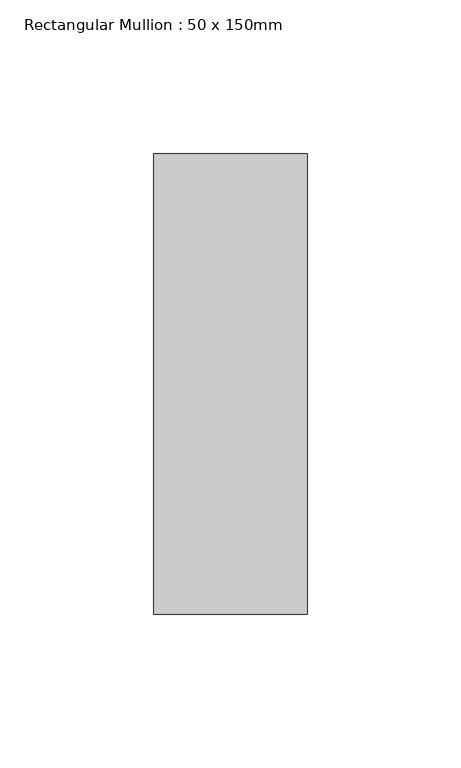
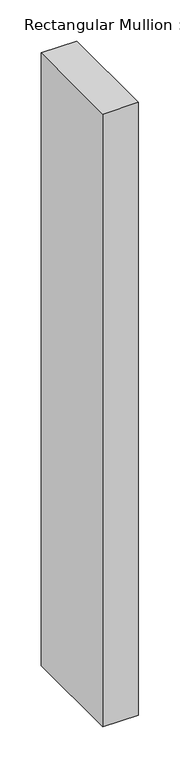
"""IFC4 building model written with IfcOpenShell, lengths in millimetres: member geometry, Rectangular Mullion : 50 x 150mm."""

from ifc_helpers import new_model, si_unit, frame, origin, place, context, project, spatial, polyline, outline, extrude, source, transform, mapped, element, save


def rectangular_mullion_50_x_150mm_bae6ea92(model_context):
    return source(origin(), model_context, "Body", "SweptSolid", [
        extrude(outline(polyline([(0.0, 75.0), (0.0, -75.0), (-50.0, -75.0), (-50.0, 75.0), (0.0, 75.0)])), frame((0.0, 0.0, -908.8006681), z_axis=(0.0, 0.0, 1.0), x_axis=(1.0, 0.0, 0.0)), (0.0, 0.0, 1.0), 908.8006681),
    ])


if __name__ == "__main__":
    model = new_model("IFC4")
    model_context = context("Model", 3, world=origin())
    ifc_project = project(units=[si_unit("LENGTHUNIT", "METRE", prefix="MILLI")], contexts=[model_context])
    site = spatial("IfcSite", under=ifc_project)
    building = spatial("IfcBuilding", under=site)
    placement = place(None, origin())
    rectangular_mullion_50_x_150mm_shape = rectangular_mullion_50_x_150mm_bae6ea92(model_context)
    element("IfcMember", 1, ObjectType="Rectangular Mullion : 50 x 150mm", at=placement, inside=building, context=model_context, shape_type="MappedRepresentation", body=[
        mapped(rectangular_mullion_50_x_150mm_shape, transform((0.0, 0.0, 0.0), x_axis=(1.0, 0.0, 0.0), y_axis=(0.0, 1.0, 0.0), z_axis=(0.0, 0.0, 1.0))),
    ])
    save(model, "model.ifc")
